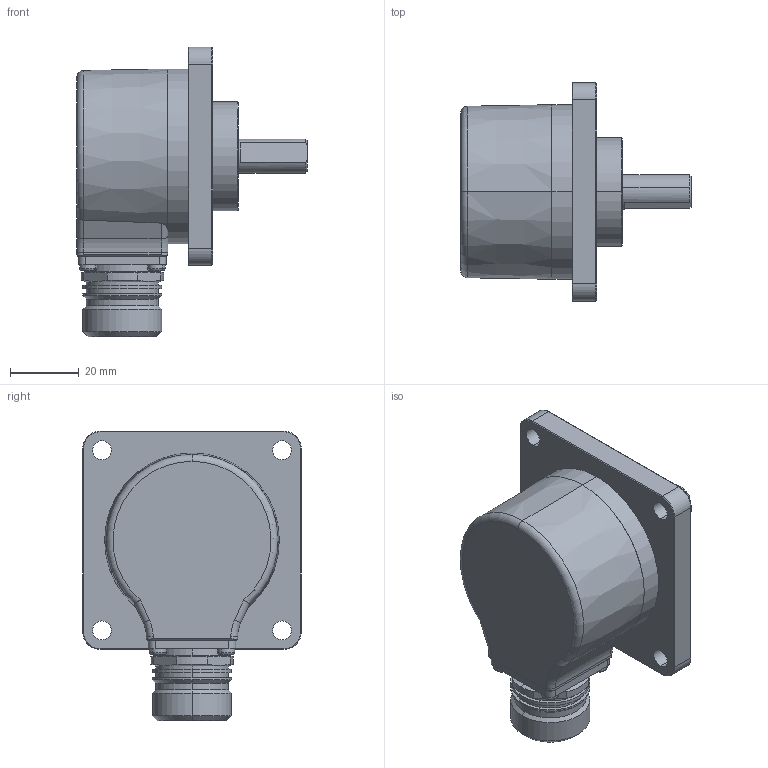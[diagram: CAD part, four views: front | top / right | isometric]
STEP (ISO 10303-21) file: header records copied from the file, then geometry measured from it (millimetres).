
FILE_DESCRIPTION (( 'STEP AP214' ), '1' );
FILE_NAME ('5000.D3X8.XXXX.STEP', '2007-07-05T07:27:11', ( 'DanneckerS' ), ( ' ' ), 'SwSTEP 2.0', 'SolidWorks 2007', '' );
FILE_SCHEMA (( 'AUTOMOTIVE_DESIGN' ));
Length unit declared in the file: millimetre
Products named in the file (1): 5000.D3X8.XXXX
Bounding box: 67 x 63.5 x 84.25 mm (x, y, z)
Surface area: 22471 mm2 (no closed solid volume)
Topology: 0 solids, 27 shells, 339 faces, 874 edges, 559 vertices
Faces by surface type: cylinder 121, plane 115, torus 38, sphere 32, cone 29, bspline 4
Entity records: 14179 total; most frequent: DIRECTION 1994, CARTESIAN_POINT 1955, ORIENTED_EDGE 1574, EDGE_CURVE 850, AXIS2_PLACEMENT_3D 842, VERTEX_POINT 559, CIRCLE 506, EDGE_LOOP 398
